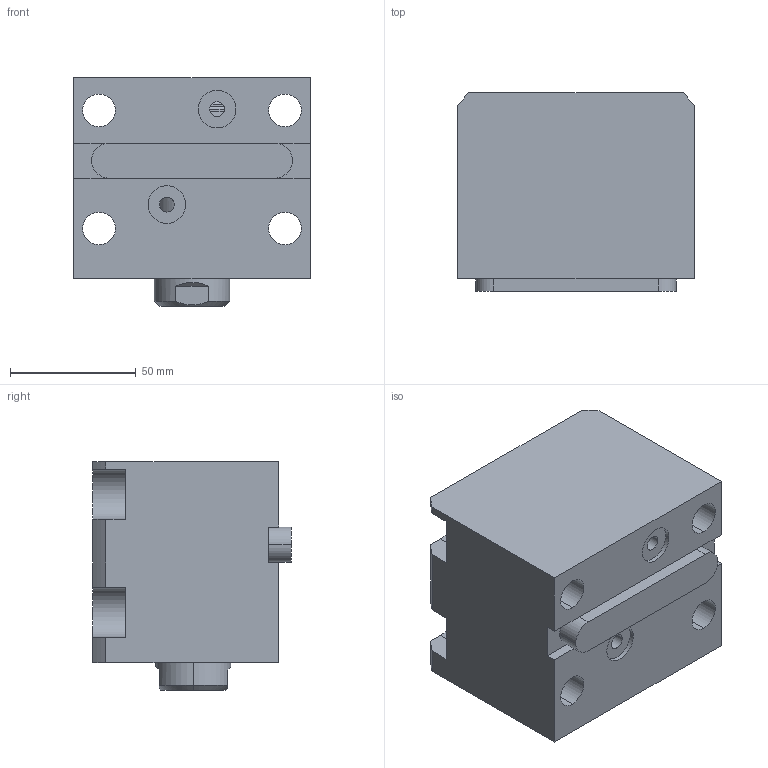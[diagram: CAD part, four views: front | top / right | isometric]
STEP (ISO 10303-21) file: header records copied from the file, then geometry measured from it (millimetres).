
FILE_DESCRIPTION (( 'STEP AP203' ), '1' );
FILE_NAME ('CHTB-LAM50-20N.STEP', '2018-05-23T09:30:33', ( '' ), ( '' ), 'SwSTEP 2.0', 'SolidWorks 2015', '' );
FILE_SCHEMA (( 'CONFIG_CONTROL_DESIGN' ));
Length unit declared in the file: millimetre
Products named in the file (4): CHTB-LAM50-20N; 掛极LAM50-20N; CHTM-SDMA50QG; 活塞杆LAM50-20N
Assembly tree (3 placements, depth 2):
  CHTB-LAM50-20N
    掛极LAM50-20N
    活塞杆LAM50-20N
    CHTM-SDMA50QG
Bounding box: 94 x 79 x 91 mm (x, y, z)
Volume: 477334.6 mm3; surface area: 94768.6 mm2
Topology: 3 solids, 3 shells, 192 faces, 524 edges, 347 vertices
Faces by surface type: cylinder 96, plane 51, torus 16, cone 15, bspline 14
Entity records: 11011 total; most frequent: CARTESIAN_POINT 5956, ORIENTED_EDGE 1036, DIRECTION 908, EDGE_CURVE 518, AXIS2_PLACEMENT_3D 356, VERTEX_POINT 347, EDGE_LOOP 221, LINE 196
